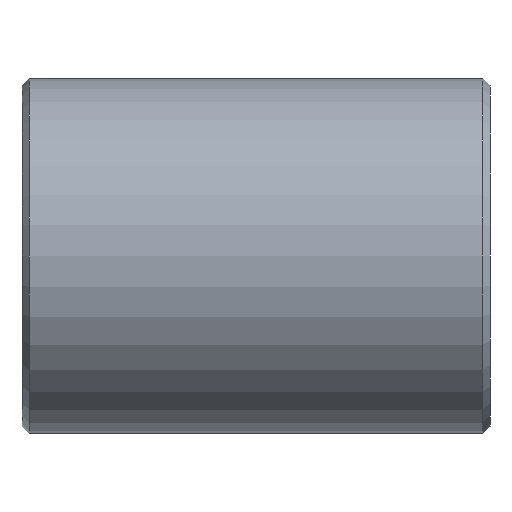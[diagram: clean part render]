
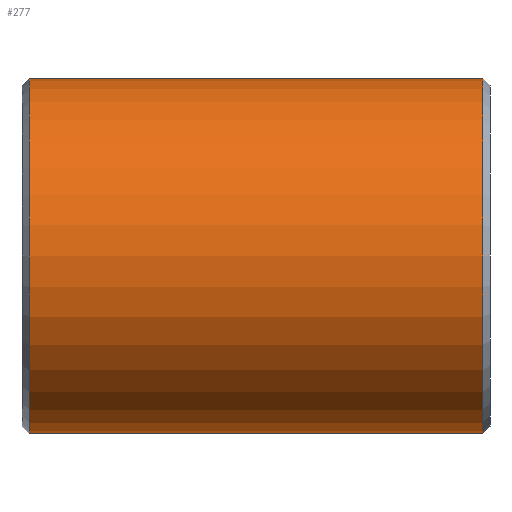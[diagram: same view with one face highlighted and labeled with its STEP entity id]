
A CAD part, front view. The second image highlights one B-rep face of the part: STEP entity #277.
In plain terms, the highlighted cylindrical face has radius 25 mm (diameter 50 mm), a partial arc.
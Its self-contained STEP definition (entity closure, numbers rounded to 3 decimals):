
#6 = DIRECTION ( 'NONE',  ( 0., 0., -1. ) ) ;
#13 = CARTESIAN_POINT ( 'NONE',  ( 65., 0., -25. ) ) ;
#17 = ORIENTED_EDGE ( 'NONE', *, *, #63, .F. ) ;
#37 = CIRCLE ( 'NONE', #200, 25. ) ;
#38 = DIRECTION ( 'NONE',  ( 0., 0., 1. ) ) ;
#55 = CARTESIAN_POINT ( 'NONE',  ( 1., 0., 25. ) ) ;
#59 = EDGE_CURVE ( 'NONE', #287, #194, #278, .T. ) ;
#63 = EDGE_CURVE ( 'NONE', #252, #197, #75, .T. ) ;
#75 = LINE ( 'NONE', #330, #169 ) ;
#122 = CARTESIAN_POINT ( 'NONE',  ( 1., 0., 0. ) ) ;
#128 = DIRECTION ( 'NONE',  ( -1., 0., 0. ) ) ;
#133 = VECTOR ( 'NONE', #259, 1000. ) ;
#152 = CARTESIAN_POINT ( 'NONE',  ( 0., 0., 0. ) ) ;
#162 = CARTESIAN_POINT ( 'NONE',  ( 0., 0., 25. ) ) ;
#169 = VECTOR ( 'NONE', #333, 1000. ) ;
#170 = CARTESIAN_POINT ( 'NONE',  ( 65., 0., 25. ) ) ;
#194 = VERTEX_POINT ( 'NONE', #55 ) ;
#197 = VERTEX_POINT ( 'NONE', #273 ) ;
#200 = AXIS2_PLACEMENT_3D ( 'NONE', #412, #411, #38 ) ;
#252 = VERTEX_POINT ( 'NONE', #13 ) ;
#259 = DIRECTION ( 'NONE',  ( -1., 0., 0. ) ) ;
#273 = CARTESIAN_POINT ( 'NONE',  ( 1., 0., -25. ) ) ;
#277 = ADVANCED_FACE ( 'NONE', ( #337 ), #318, .T. ) ;
#278 = LINE ( 'NONE', #162, #133 ) ;
#287 = VERTEX_POINT ( 'NONE', #170 ) ;
#292 = EDGE_CURVE ( 'NONE', #194, #197, #295, .T. ) ;
#295 = CIRCLE ( 'NONE', #364, 25. ) ;
#318 = CYLINDRICAL_SURFACE ( 'NONE', #319, 25. ) ;
#319 = AXIS2_PLACEMENT_3D ( 'NONE', #152, #128, #430 ) ;
#330 = CARTESIAN_POINT ( 'NONE',  ( 0., 0., -25. ) ) ;
#333 = DIRECTION ( 'NONE',  ( -1., 0., 0. ) ) ;
#337 = FACE_OUTER_BOUND ( 'NONE', #356, .T. ) ;
#343 = DIRECTION ( 'NONE',  ( 1., 0., 0. ) ) ;
#348 = ORIENTED_EDGE ( 'NONE', *, *, #59, .T. ) ;
#354 = ORIENTED_EDGE ( 'NONE', *, *, #292, .T. ) ;
#356 = EDGE_LOOP ( 'NONE', ( #17, #383, #348, #354 ) ) ;
#364 = AXIS2_PLACEMENT_3D ( 'NONE', #122, #343, #6 ) ;
#383 = ORIENTED_EDGE ( 'NONE', *, *, #389, .T. ) ;
#389 = EDGE_CURVE ( 'NONE', #252, #287, #37, .T. ) ;
#411 = DIRECTION ( 'NONE',  ( -1., 0., 0. ) ) ;
#412 = CARTESIAN_POINT ( 'NONE',  ( 65., 0., 0. ) ) ;
#430 = DIRECTION ( 'NONE',  ( 0., 0., 1. ) ) ;
